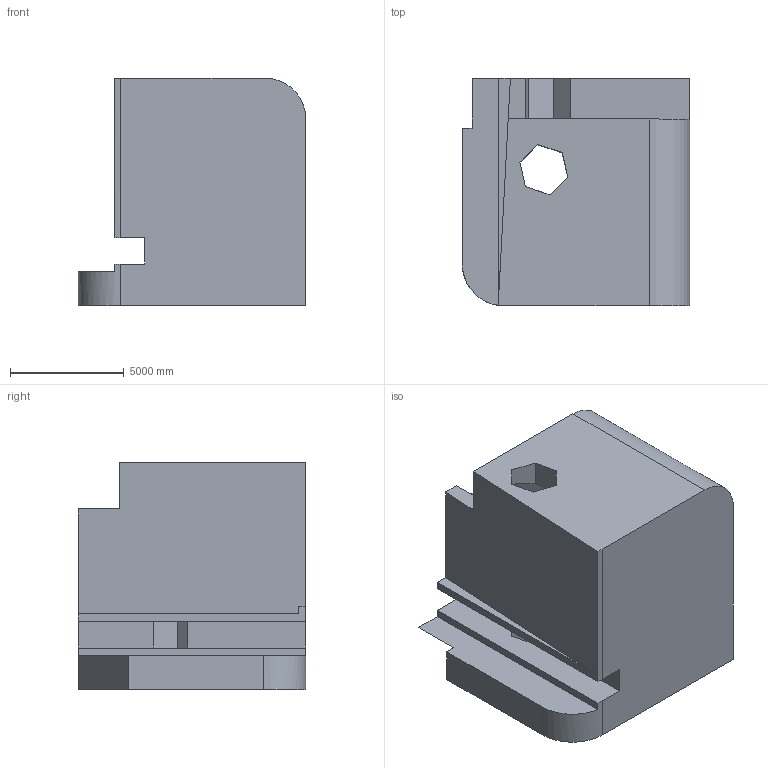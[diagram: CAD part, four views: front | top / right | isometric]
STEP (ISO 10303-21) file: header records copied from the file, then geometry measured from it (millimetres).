
FILE_DESCRIPTION (( 'STEP AP203' ), '1' );
FILE_NAME ('1962.STEP', '2022-08-23T10:01:09', ( 'user' ), ( '' ), 'SwSTEP 2.0', 'SolidWorks 2021', '' );
FILE_SCHEMA (( 'CONFIG_CONTROL_DESIGN' ));
Length unit declared in the file: centimetre
Products named in the file (1): 1962
Bounding box: 10000 x 10000 x 10000 mm (x, y, z)
Volume: 723813426710 mm3; surface area: 672952754.8 mm2
Topology: 1 solids, 1 shells, 50 faces, 156 edges, 104 vertices
Faces by surface type: plane 47, cylinder 3
Entity records: 1797 total; most frequent: ORIENTED_EDGE 312, CARTESIAN_POINT 311, DIRECTION 266, EDGE_CURVE 156, VECTOR 148, LINE 148, VERTEX_POINT 104, AXIS2_PLACEMENT_3D 59
